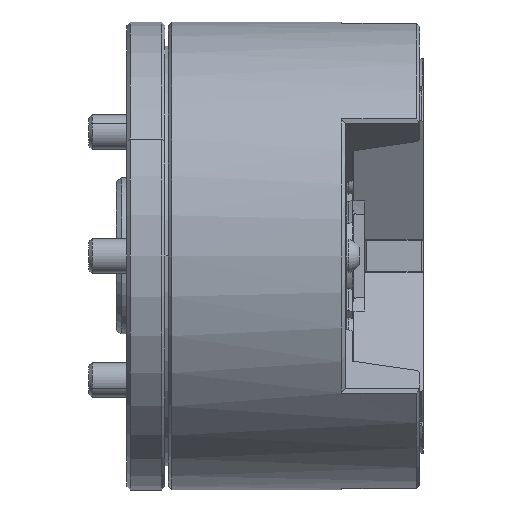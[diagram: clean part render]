
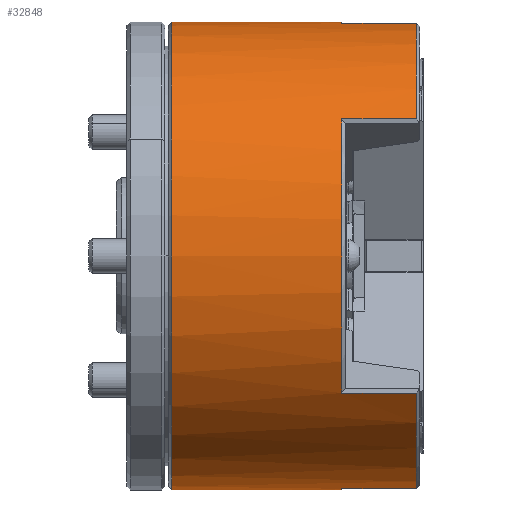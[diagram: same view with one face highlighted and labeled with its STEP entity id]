
A CAD part, front view. The second image highlights one B-rep face of the part: STEP entity #32848.
In plain terms, the highlighted cylindrical face has radius 67.5 mm (diameter 135 mm), a partial arc.
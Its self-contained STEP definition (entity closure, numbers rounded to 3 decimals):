
#832 = DIRECTION ( 'NONE',  ( -1., 0., 0. ) ) ;
#935 = CARTESIAN_POINT ( 'NONE',  ( -21.161, -0.455, -67.499 ) ) ;
#1116 = CARTESIAN_POINT ( 'NONE',  ( 21., -54.717, 39.525 ) ) ;
#1117 = CARTESIAN_POINT ( 'NONE',  ( -23.011, -1.243, -67.489 ) ) ;
#1351 = CARTESIAN_POINT ( 'NONE',  ( -0.478, -6.871, -67.149 ) ) ;
#1416 = CARTESIAN_POINT ( 'NONE',  ( 63.843, -54.717, -39.525 ) ) ;
#1475 = AXIS2_PLACEMENT_3D ( 'NONE', #28991, #20702, #5315 ) ;
#1523 = CARTESIAN_POINT ( 'NONE',  ( -20.822, -0.242, -67.5 ) ) ;
#2564 = DIRECTION ( 'NONE',  ( 1., 0., 0. ) ) ;
#2937 = CARTESIAN_POINT ( 'NONE',  ( 63.843, 0., 67.5 ) ) ;
#3113 = DIRECTION ( 'NONE',  ( 1., 0., 0. ) ) ;
#3313 = DIRECTION ( 'NONE',  ( 0., 0., -1. ) ) ;
#3695 = DIRECTION ( 'NONE',  ( 1., 0., 0. ) ) ;
#3727 = ORIENTED_EDGE ( 'NONE', *, *, #22917, .T. ) ;
#3744 = LINE ( 'NONE', #1416, #33365 ) ;
#3760 = EDGE_CURVE ( 'NONE', #25686, #33637, #5889, .T. ) ;
#3809 = VECTOR ( 'NONE', #17611, 1000. ) ;
#3847 = CIRCLE ( 'NONE', #30279, 67.5 ) ;
#4164 = CARTESIAN_POINT ( 'NONE',  ( -49.5, 0., 67.5 ) ) ;
#4217 = CARTESIAN_POINT ( 'NONE',  ( -28.85, -0.487, -67.5 ) ) ;
#4403 = CARTESIAN_POINT ( 'NONE',  ( -24.191, -1.467, -67.484 ) ) ;
#4522 = AXIS2_PLACEMENT_3D ( 'NONE', #16874, #13996, #28835 ) ;
#4555 = CIRCLE ( 'NONE', #1475, 67.5 ) ;
#4605 = CARTESIAN_POINT ( 'NONE',  ( -21.693, -0.735, -67.496 ) ) ;
#4830 = DIRECTION ( 'NONE',  ( 1., 0., 0. ) ) ;
#4850 = VERTEX_POINT ( 'NONE', #33189 ) ;
#4871 = EDGE_CURVE ( 'NONE', #4873, #4850, #3744, .T. ) ;
#4873 = VERTEX_POINT ( 'NONE', #18166 ) ;
#5190 = ORIENTED_EDGE ( 'NONE', *, *, #23787, .T. ) ;
#5249 = VERTEX_POINT ( 'NONE', #1351 ) ;
#5315 = DIRECTION ( 'NONE',  ( 0., 0., 1. ) ) ;
#5605 = VERTEX_POINT ( 'NONE', #4164 ) ;
#5624 = CARTESIAN_POINT ( 'NONE',  ( 63.843, 0., 0. ) ) ;
#5631 = AXIS2_PLACEMENT_3D ( 'NONE', #12799, #9570, #33420 ) ;
#5889 = LINE ( 'NONE', #26146, #3809 ) ;
#5981 = CARTESIAN_POINT ( 'NONE',  ( 63.843, 0., -67.5 ) ) ;
#6155 = EDGE_CURVE ( 'NONE', #37954, #31263, #18075, .T. ) ;
#6314 = VECTOR ( 'NONE', #8707, 1000. ) ;
#7296 = CARTESIAN_POINT ( 'NONE',  ( -25.405, -1.5, -67.483 ) ) ;
#7905 = EDGE_CURVE ( 'NONE', #10943, #23258, #28941, .T. ) ;
#7925 = DIRECTION ( 'NONE',  ( 0., 0., -1. ) ) ;
#8707 = DIRECTION ( 'NONE',  ( 1., 0., 0. ) ) ;
#9290 = EDGE_CURVE ( 'NONE', #13860, #37987, #13684, .T. ) ;
#9570 = DIRECTION ( 'NONE',  ( -1., 0., 0. ) ) ;
#10007 = CARTESIAN_POINT ( 'NONE',  ( -22.437, -1.051, -67.492 ) ) ;
#10285 = DIRECTION ( 'NONE',  ( 1., 0., 0. ) ) ;
#10943 = VERTEX_POINT ( 'NONE', #16192 ) ;
#11941 = DIRECTION ( 'NONE',  ( 1., 0., 0. ) ) ;
#12799 = CARTESIAN_POINT ( 'NONE',  ( -0.478, 0., 0. ) ) ;
#13381 = CARTESIAN_POINT ( 'NONE',  ( 63.843, 0., -67.5 ) ) ;
#13684 = LINE ( 'NONE', #28533, #17623 ) ;
#13860 = VERTEX_POINT ( 'NONE', #28118 ) ;
#13996 = DIRECTION ( 'NONE',  ( 1., 0., 0. ) ) ;
#14273 = FACE_OUTER_BOUND ( 'NONE', #25055, .T. ) ;
#15538 = ORIENTED_EDGE ( 'NONE', *, *, #9290, .T. ) ;
#15956 = AXIS2_PLACEMENT_3D ( 'NONE', #19871, #10285, #25696 ) ;
#16138 = EDGE_CURVE ( 'NONE', #4850, #13860, #22244, .T. ) ;
#16192 = CARTESIAN_POINT ( 'NONE',  ( -49.5, 0., -67.5 ) ) ;
#16500 = CARTESIAN_POINT ( 'NONE',  ( -23.4, -1.338, -67.487 ) ) ;
#16874 = CARTESIAN_POINT ( 'NONE',  ( 21., 0., 0. ) ) ;
#17435 = VECTOR ( 'NONE', #3695, 1000. ) ;
#17558 = CARTESIAN_POINT ( 'NONE',  ( -0.478, 0., 0. ) ) ;
#17611 = DIRECTION ( 'NONE',  ( -1., 0., 0. ) ) ;
#17623 = VECTOR ( 'NONE', #22965, 1000. ) ;
#17667 = CARTESIAN_POINT ( 'NONE',  ( -0.478, 0., -67.5 ) ) ;
#17687 = EDGE_CURVE ( 'NONE', #33637, #25061, #3847, .T. ) ;
#17729 = ORIENTED_EDGE ( 'NONE', *, *, #17687, .T. ) ;
#18075 = LINE ( 'NONE', #5981, #24285 ) ;
#18088 = B_SPLINE_CURVE_WITH_KNOTS ( 'NONE', 3,
 ( #24842, #4217, #24462, #30603, #27916, #36802, #7296, #27716, #4403, #16500, #1117, #10007, #21950, #33484, #4605, #935, #1523, #27525 ),
 .UNSPECIFIED., .F., .F.,
 ( 4, 2, 2, 2, 2, 2, 2, 2, 4 ),
 ( 0., 0.002, 0.004, 0.005, 0.006, 0.007, 0.008, 0.008, 0.01 ),
 .UNSPECIFIED. ) ;
#18114 = CARTESIAN_POINT ( 'NONE',  ( 63.843, -6.871, -67.149 ) ) ;
#18166 = CARTESIAN_POINT ( 'NONE',  ( 21., -54.717, -39.525 ) ) ;
#18652 = ORIENTED_EDGE ( 'NONE', *, *, #7905, .T. ) ;
#19145 = CARTESIAN_POINT ( 'NONE',  ( 21., -6.871, 67.149 ) ) ;
#19244 = CIRCLE ( 'NONE', #4522, 67.5 ) ;
#19827 = CARTESIAN_POINT ( 'NONE',  ( -49.5, 0., 0. ) ) ;
#19871 = CARTESIAN_POINT ( 'NONE',  ( 21., 0., 0. ) ) ;
#20393 = CARTESIAN_POINT ( 'NONE',  ( 21., -6.871, -67.149 ) ) ;
#20447 = CYLINDRICAL_SURFACE ( 'NONE', #26669, 67.5 ) ;
#20702 = DIRECTION ( 'NONE',  ( -1., 0., 0. ) ) ;
#20861 = CARTESIAN_POINT ( 'NONE',  ( -0.478, -6.871, 67.149 ) ) ;
#21072 = CIRCLE ( 'NONE', #37123, 67.5 ) ;
#21950 = CARTESIAN_POINT ( 'NONE',  ( -22.247, -0.979, -67.493 ) ) ;
#22157 = EDGE_CURVE ( 'NONE', #5249, #34243, #28753, .T. ) ;
#22244 = CIRCLE ( 'NONE', #5631, 67.5 ) ;
#22917 = EDGE_CURVE ( 'NONE', #31263, #5249, #4555, .T. ) ;
#22965 = DIRECTION ( 'NONE',  ( 1., 0., 0. ) ) ;
#23189 = DIRECTION ( 'NONE',  ( 0., 0., 1. ) ) ;
#23258 = VERTEX_POINT ( 'NONE', #34536 ) ;
#23336 = ORIENTED_EDGE ( 'NONE', *, *, #32978, .F. ) ;
#23360 = DIRECTION ( 'NONE',  ( -1., 0., 0. ) ) ;
#23787 = EDGE_CURVE ( 'NONE', #23258, #37954, #18088, .T. ) ;
#24285 = VECTOR ( 'NONE', #11941, 1000. ) ;
#24462 = CARTESIAN_POINT ( 'NONE',  ( -28.141, -0.859, -67.495 ) ) ;
#24842 = CARTESIAN_POINT ( 'NONE',  ( -29.5, 0., -67.5 ) ) ;
#25055 = EDGE_LOOP ( 'NONE', ( #26839, #26300, #18652, #5190, #35145, #3727, #30586, #37657, #30014, #27372, #15538, #23336, #34920, #17729 ) ) ;
#25061 = VERTEX_POINT ( 'NONE', #25261 ) ;
#25261 = CARTESIAN_POINT ( 'NONE',  ( -0.478, 0., 67.5 ) ) ;
#25686 = VERTEX_POINT ( 'NONE', #19145 ) ;
#25696 = DIRECTION ( 'NONE',  ( 0., 0., -1. ) ) ;
#26146 = CARTESIAN_POINT ( 'NONE',  ( 63.843, -6.871, 67.149 ) ) ;
#26300 = ORIENTED_EDGE ( 'NONE', *, *, #30244, .T. ) ;
#26669 = AXIS2_PLACEMENT_3D ( 'NONE', #5624, #3113, #3313 ) ;
#26839 = ORIENTED_EDGE ( 'NONE', *, *, #28245, .F. ) ;
#27372 = ORIENTED_EDGE ( 'NONE', *, *, #16138, .T. ) ;
#27525 = CARTESIAN_POINT ( 'NONE',  ( -20.5, 0., -67.5 ) ) ;
#27716 = CARTESIAN_POINT ( 'NONE',  ( -24.596, -1.5, -67.483 ) ) ;
#27916 = CARTESIAN_POINT ( 'NONE',  ( -26.595, -1.339, -67.487 ) ) ;
#28118 = CARTESIAN_POINT ( 'NONE',  ( -0.478, -54.717, 39.525 ) ) ;
#28245 = EDGE_CURVE ( 'NONE', #5605, #25061, #37650, .T. ) ;
#28533 = CARTESIAN_POINT ( 'NONE',  ( 63.843, -54.717, 39.525 ) ) ;
#28753 = LINE ( 'NONE', #18114, #17435 ) ;
#28835 = DIRECTION ( 'NONE',  ( 0., 0., -1. ) ) ;
#28941 = LINE ( 'NONE', #13381, #34191 ) ;
#28991 = CARTESIAN_POINT ( 'NONE',  ( -0.478, 0., 0. ) ) ;
#29523 = CIRCLE ( 'NONE', #15956, 67.5 ) ;
#30014 = ORIENTED_EDGE ( 'NONE', *, *, #4871, .T. ) ;
#30028 = CARTESIAN_POINT ( 'NONE',  ( -20.5, 0., -67.5 ) ) ;
#30244 = EDGE_CURVE ( 'NONE', #5605, #10943, #21072, .T. ) ;
#30279 = AXIS2_PLACEMENT_3D ( 'NONE', #17558, #23360, #23189 ) ;
#30586 = ORIENTED_EDGE ( 'NONE', *, *, #22157, .T. ) ;
#30603 = CARTESIAN_POINT ( 'NONE',  ( -26.988, -1.243, -67.489 ) ) ;
#31263 = VERTEX_POINT ( 'NONE', #17667 ) ;
#32848 = ADVANCED_FACE ( 'NONE', ( #14273 ), #20447, .T. ) ;
#32978 = EDGE_CURVE ( 'NONE', #25686, #37987, #19244, .T. ) ;
#33189 = CARTESIAN_POINT ( 'NONE',  ( -0.478, -54.717, -39.525 ) ) ;
#33365 = VECTOR ( 'NONE', #832, 1000. ) ;
#33420 = DIRECTION ( 'NONE',  ( 0., 0., 1. ) ) ;
#33484 = CARTESIAN_POINT ( 'NONE',  ( -21.875, -0.821, -67.495 ) ) ;
#33637 = VERTEX_POINT ( 'NONE', #20861 ) ;
#34191 = VECTOR ( 'NONE', #2564, 1000. ) ;
#34243 = VERTEX_POINT ( 'NONE', #20393 ) ;
#34536 = CARTESIAN_POINT ( 'NONE',  ( -29.5, 0., -67.5 ) ) ;
#34920 = ORIENTED_EDGE ( 'NONE', *, *, #3760, .T. ) ;
#35145 = ORIENTED_EDGE ( 'NONE', *, *, #6155, .T. ) ;
#36802 = CARTESIAN_POINT ( 'NONE',  ( -25.804, -1.467, -67.484 ) ) ;
#36912 = EDGE_CURVE ( 'NONE', #4873, #34243, #29523, .T. ) ;
#37123 = AXIS2_PLACEMENT_3D ( 'NONE', #19827, #4830, #7925 ) ;
#37650 = LINE ( 'NONE', #2937, #6314 ) ;
#37657 = ORIENTED_EDGE ( 'NONE', *, *, #36912, .F. ) ;
#37954 = VERTEX_POINT ( 'NONE', #30028 ) ;
#37987 = VERTEX_POINT ( 'NONE', #1116 ) ;
